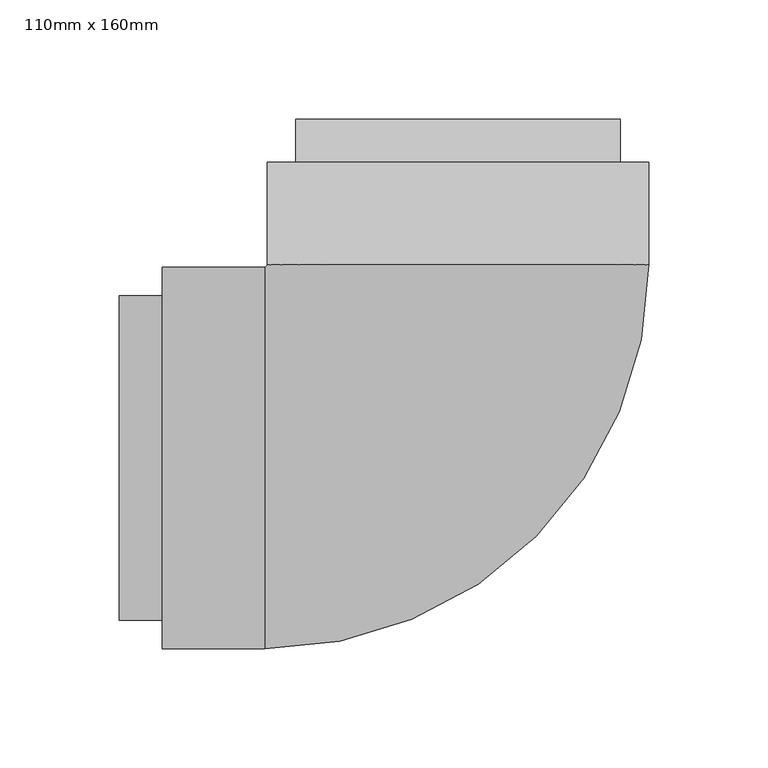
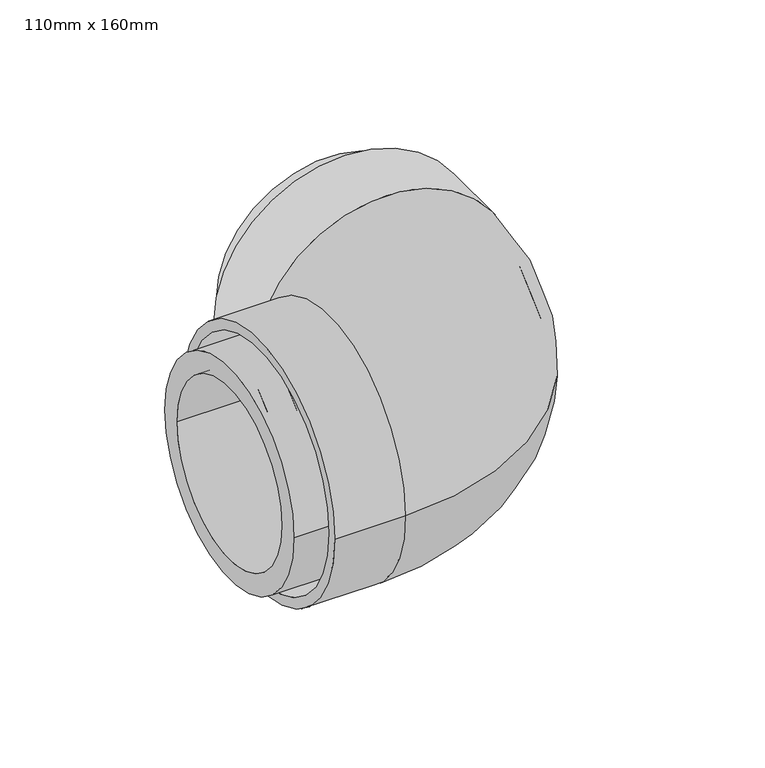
"""IFC4 building model written with IfcOpenShell, lengths in millimetres: pipe fitting geometry, Durapipe_PipeFittings_PLX_CloseFit_90Elbow : 110mm x 160mm."""

from ifc_helpers import new_model, si_unit, point, frame, origin, place, context, project, spatial, polyline, circle_curve, ellipse_curve, trimmed, source, transform, mapped, element, save
from ifc_brep_helpers import plane_surface, cylinder_surface, revolved_surface, advanced_brep


def pipe_fitting_110mm_x_160mm_ff918d63(model_context):
    return source(origin(), model_context, "Body", "AdvancedBrep", [
        advanced_brep(
        [(-124.0, -80.0, 0.0), (-124.0, 80.0, 0.0), (-124.0, -73.75, 0.0), (-124.0, 73.75, 0.0), (-81.0, -80.0, 0.0), (-81.0, 80.0, 0.0), (-81.0, -73.75, 0.0), (-81.0, 73.75, 0.0), (-80.0, 81.0, 0.0), (80.0, 81.0, 0.0), (-73.75, 81.0, 0.0), (73.75, 81.0, 0.0), (80.0, 124.0, 0.0), (-80.0, 124.0, 0.0), (73.75, 124.0, 0.0), (-73.75, 124.0, 0.0)],
        [
            (0, 1, circle_curve(frame((-124.0, 0.0, 0.0), z_axis=(-1.0, 0.0, 0.0), x_axis=(0.0, 1.0, 0.0)), 80.0)),
            (1, 0, circle_curve(frame((-124.0, 0.0, 0.0), z_axis=(-1.0, 0.0, 0.0), x_axis=(0.0, 1.0, 0.0)), 80.0)),
            (2, 3, circle_curve(frame((-124.0, 0.0, 0.0), z_axis=(1.0, 0.0, 0.0), x_axis=(0.0, 1.0, 0.0)), 73.75)),
            (3, 2, circle_curve(frame((-124.0, 0.0, 0.0), z_axis=(1.0, 0.0, 0.0), x_axis=(0.0, 1.0, 0.0)), 73.75)),
            (0, 4),
            (4, 5, circle_curve(frame((-81.0, 0.0, 0.0), z_axis=(-1.0, 0.0, 0.0), x_axis=(0.0, 1.0, 0.0)), 80.0)),
            (5, 1),
            (5, 4, circle_curve(frame((-81.0, 0.0, 0.0), z_axis=(-1.0, 0.0, 0.0), x_axis=(0.0, 1.0, 0.0)), 80.0)),
            (2, 6),
            (6, 7, circle_curve(frame((-81.0, 0.0, 0.0), z_axis=(1.0, 0.0, 0.0), x_axis=(0.0, 1.0, 0.0)), 73.75)),
            (7, 3),
            (7, 6, circle_curve(frame((-81.0, 0.0, 0.0), z_axis=(1.0, 0.0, 0.0), x_axis=(0.0, 1.0, 0.0)), 73.75)),
            (8, 5, circle_curve(frame((-81.0, 81.0, 0.0), z_axis=(0.0, 0.0, -1.0), x_axis=(0.0, -1.0, 0.0)), 1.0)),
            (4, 9, circle_curve(frame((-81.0, 81.0, 0.0), z_axis=(0.0, 0.0, 1.0), x_axis=(0.0, -1.0, 0.0)), 161.0)),
            (9, 8, circle_curve(frame((0.0, 81.0, 0.0), z_axis=(0.0, -1.0, 0.0), x_axis=(-1.0, 0.0, 0.0)), 80.0)),
            (8, 9, circle_curve(frame((0.0, 81.0, 0.0), z_axis=(0.0, -1.0, 0.0), x_axis=(-1.0, 0.0, 0.0)), 80.0)),
            (10, 7, circle_curve(frame((-81.0, 81.0, 0.0), z_axis=(0.0, 0.0, -1.0), x_axis=(0.0, -1.0, 0.0)), 7.25)),
            (6, 11, circle_curve(frame((-81.0, 81.0, 0.0), z_axis=(0.0, 0.0, 1.0), x_axis=(0.0, -1.0, 0.0)), 154.75)),
            (11, 10, circle_curve(frame((0.0, 81.0, 0.0), z_axis=(0.0, 1.0, 0.0), x_axis=(-1.0, 0.0, 0.0)), 73.75)),
            (10, 11, circle_curve(frame((0.0, 81.0, 0.0), z_axis=(0.0, 1.0, 0.0), x_axis=(-1.0, 0.0, 0.0)), 73.75)),
            (12, 13, circle_curve(frame((0.0, 124.0, 0.0), z_axis=(0.0, 1.0, 0.0), x_axis=(-1.0, 0.0, 0.0)), 80.0)),
            (13, 12, circle_curve(frame((0.0, 124.0, 0.0), z_axis=(0.0, 1.0, 0.0), x_axis=(-1.0, 0.0, 0.0)), 80.0)),
            (14, 15, circle_curve(frame((0.0, 124.0, 0.0), z_axis=(0.0, -1.0, 0.0), x_axis=(-1.0, 0.0, 0.0)), 73.75)),
            (15, 14, circle_curve(frame((0.0, 124.0, 0.0), z_axis=(0.0, -1.0, 0.0), x_axis=(-1.0, 0.0, 0.0)), 73.75)),
            (9, 12),
            (13, 8),
            (11, 14),
            (15, 10),
        ],
        [
            plane_surface(frame((-124.0, 0.0, 0.0), z_axis=(-1.0, 0.0, 0.0), x_axis=(0.0, 0.0, 1.0))),
            cylinder_surface(frame((-124.0, 0.0, 0.0), z_axis=(-1.0, 0.0, 0.0), x_axis=(0.0, 1.0, 0.0)), 80.0),
            revolved_surface(polyline([(-81.0, 73.75, 0.0), (-124.0, 73.75, 0.0)]), (-124.0, 0.0, 0.0), (1.0, 0.0, 0.0)),
            revolved_surface(trimmed(ellipse_curve(frame((-81.0, 0.0, 0.0), z_axis=(-1.0, 0.0, 0.0), x_axis=(0.0, 1.0, 0.0)), 80.0, 80.0), [point((-81.0, -80.0, 0.0))], [point((-81.0, 80.0, 0.0))], True, "CARTESIAN"), (-81.0, 81.0, 0.0), (0.0, 0.0, 1.0)),
            revolved_surface(trimmed(ellipse_curve(frame((-81.0, 0.0, 0.0), z_axis=(-1.0, 0.0, 0.0), x_axis=(0.0, 1.0, 0.0)), 80.0, 80.0), [point((-81.0, 80.0, 0.0))], [point((-81.0, -80.0, 0.0))], True, "CARTESIAN"), (-81.0, 81.0, 0.0), (0.0, 0.0, 1.0)),
            revolved_surface(trimmed(ellipse_curve(frame((-81.0, 0.0, 0.0), z_axis=(1.0, 0.0, 0.0), x_axis=(0.0, 1.0, 0.0)), 73.75, 73.75), [point((-81.0, -73.75, 0.0))], [point((-81.0, 73.75, 0.0))], True, "CARTESIAN"), (-81.0, 81.0, 0.0), (0.0, 0.0, 1.0)),
            revolved_surface(trimmed(ellipse_curve(frame((-81.0, 0.0, 0.0), z_axis=(1.0, 0.0, 0.0), x_axis=(0.0, 1.0, 0.0)), 73.75, 73.75), [point((-81.0, 73.75, 0.0))], [point((-81.0, -73.75, 0.0))], True, "CARTESIAN"), (-81.0, 81.0, 0.0), (0.0, 0.0, 1.0)),
            plane_surface(frame((0.0, 124.0, 0.0), z_axis=(0.0, 1.0, 0.0), x_axis=(0.0, 0.0, 1.0))),
            cylinder_surface(frame((0.0, 81.0, 0.0), z_axis=(0.0, -1.0, 0.0), x_axis=(-1.0, 0.0, 0.0)), 80.0),
            revolved_surface(polyline([(-73.75, 124.0, 0.0), (-73.75, 81.0, 0.0)]), (0.0, 81.0, 0.0), (0.0, 1.0, 0.0)),
        ],
        [
            (0, [[1, 2], [3, 4]]),
            (1, [[-1, 5, 6, 7]]),
            (1, [[-2, -7, 8, -5]]),
            (2, [[-3, 9, 10, 11]]),
            (2, [[-4, -11, 12, -9]]),
            (3, [[13, -6, 14, 15]]),
            (4, [[-14, -8, -13, 16]]),
            (5, [[17, -10, 18, 19]]),
            (6, [[-18, -12, -17, 20]]),
            (7, [[21, 22], [23, 24]]),
            (8, [[-15, 25, -22, 26]]),
            (8, [[-16, -26, -21, -25]]),
            (9, [[-19, 27, -24, 28]]),
            (9, [[-20, -28, -23, -27]]),
        ],
    ),
        advanced_brep(
        [(-69.0, 68.0, 0.0), (-69.0, -68.0, 0.0), (68.0, 69.0, 0.0), (-68.0, 69.0, 0.0), (-142.0, -68.0, 0.0), (-142.0, 68.0, 0.0), (-142.0, -55.2, 0.0), (-142.0, 55.2, 0.0), (-68.0, 142.0, 0.0), (68.0, 142.0, 0.0), (0.0, 142.0, 55.2), (0.0, 142.0, -55.2), (-72.0, 55.2, 0.0), (-72.0, -55.2, 0.0), (0.0, 72.0, -55.2), (0.0, 72.0, 55.2)],
        [
            (0, 1, circle_curve(frame((-69.0, 0.0, 0.0), z_axis=(1.0, 0.0, 0.0), x_axis=(0.0, 1.0, 0.0)), 68.0)),
            (1, 2, circle_curve(frame((-69.0, 69.0, 0.0), z_axis=(0.0, 0.0, 1.0), x_axis=(0.0, -1.0, 0.0)), 137.0)),
            (2, 3, circle_curve(frame((0.0, 69.0, 0.0), z_axis=(0.0, -1.0, 0.0), x_axis=(-1.0, 0.0, 0.0)), 68.0)),
            (3, 0, circle_curve(frame((-69.0, 69.0, 0.0), z_axis=(0.0, 0.0, -1.0), x_axis=(0.0, -1.0, 0.0)), 1.0)),
            (1, 0, circle_curve(frame((-69.0, 0.0, 0.0), z_axis=(1.0, 0.0, 0.0), x_axis=(0.0, 1.0, 0.0)), 68.0)),
            (3, 2, circle_curve(frame((0.0, 69.0, 0.0), z_axis=(0.0, -1.0, 0.0), x_axis=(-1.0, 0.0, 0.0)), 68.0)),
            (4, 5, circle_curve(frame((-142.0, 0.0, 0.0), z_axis=(-1.0, 0.0, 0.0), x_axis=(0.0, 1.0, 0.0)), 68.0)),
            (5, 4, circle_curve(frame((-142.0, 0.0, 0.0), z_axis=(-1.0, 0.0, 0.0), x_axis=(0.0, 1.0, 0.0)), 68.0)),
            (6, 7, circle_curve(frame((-142.0, 0.0, 0.0), z_axis=(1.0, 0.0, 0.0), x_axis=(0.0, -1.0, 0.0)), 55.2)),
            (7, 6, circle_curve(frame((-142.0, 0.0, 0.0), z_axis=(1.0, 0.0, 0.0), x_axis=(0.0, -1.0, 0.0)), 55.2)),
            (8, 9, circle_curve(frame((0.0, 142.0, 0.0), z_axis=(0.0, 1.0, 0.0), x_axis=(-1.0, 0.0, 0.0)), 68.0)),
            (9, 8, circle_curve(frame((0.0, 142.0, 0.0), z_axis=(0.0, 1.0, 0.0), x_axis=(-1.0, 0.0, 0.0)), 68.0)),
            (10, 11, circle_curve(frame((0.0, 142.0, 0.0), z_axis=(0.0, -1.0, 0.0), x_axis=(0.0, 0.0, 1.0)), 55.2)),
            (11, 10, circle_curve(frame((0.0, 142.0, 0.0), z_axis=(0.0, -1.0, 0.0), x_axis=(0.0, 0.0, 1.0)), 55.2)),
            (0, 5),
            (4, 1),
            (2, 9),
            (8, 3),
            (12, 13, circle_curve(frame((-72.0, 0.0, 0.0), z_axis=(-1.0, 0.0, 0.0), x_axis=(0.0, -1.0, 0.0)), 55.2)),
            (13, 12, circle_curve(frame((-72.0, 0.0, 0.0), z_axis=(-1.0, 0.0, 0.0), x_axis=(0.0, -1.0, 0.0)), 55.2)),
            (12, 7),
            (6, 13),
            (14, 15, circle_curve(frame((0.0, 72.0, 0.0), z_axis=(0.0, 1.0, 0.0), x_axis=(0.0, 0.0, 1.0)), 55.2)),
            (15, 14, circle_curve(frame((0.0, 72.0, 0.0), z_axis=(0.0, 1.0, 0.0), x_axis=(0.0, 0.0, 1.0)), 55.2)),
            (14, 11),
            (10, 15),
        ],
        [
            revolved_surface(trimmed(ellipse_curve(frame((-69.0, 0.0, 0.0), z_axis=(-1.0, 0.0, 0.0), x_axis=(0.0, 1.0, 0.0)), 68.0, 68.0), [point((-69.0, -68.0, 0.0))], [point((-69.0, 68.0, 0.0))], True, "CARTESIAN"), (-69.0, 69.0, 0.0), (0.0, 0.0, 1.0)),
            revolved_surface(trimmed(ellipse_curve(frame((-69.0, 0.0, 0.0), z_axis=(-1.0, 0.0, 0.0), x_axis=(0.0, 1.0, 0.0)), 68.0, 68.0), [point((-69.0, 68.0, 0.0))], [point((-69.0, -68.0, 0.0))], True, "CARTESIAN"), (-69.0, 69.0, 0.0), (0.0, 0.0, 1.0)),
            plane_surface(frame((-142.0, 0.0, 0.0), z_axis=(-1.0, 0.0, 0.0), x_axis=(0.0, 0.0, 1.0))),
            plane_surface(frame((0.0, 142.0, 0.0), z_axis=(0.0, 1.0, 0.0), x_axis=(0.0, 0.0, 1.0))),
            cylinder_surface(frame((-142.0, 0.0, 0.0), z_axis=(-1.0, 0.0, 0.0), x_axis=(0.0, 1.0, 0.0)), 68.0),
            cylinder_surface(frame((0.0, 69.0, 0.0), z_axis=(0.0, -1.0, 0.0), x_axis=(-1.0, 0.0, 0.0)), 68.0),
            plane_surface(frame((-72.0, -55.2, 0.0), z_axis=(-1.0, 0.0, 0.0), x_axis=(0.0, 0.0, -1.0))),
            revolved_surface(polyline([(-142.0, -55.2, 0.0), (-72.0, -55.2, 0.0)]), (-72.0, 0.0, 0.0), (-1.0, 0.0, 0.0)),
            plane_surface(frame((0.0, 72.0, 55.2), z_axis=(0.0, 1.0, 0.0), x_axis=(-1.0, 0.0, 0.0))),
            revolved_surface(polyline([(0.0, 142.0, 55.2), (0.0, 72.0, 55.2)]), (0.0, 72.0, 0.0), (0.0, 1.0, 0.0)),
        ],
        [
            (0, [[1, 2, 3, 4]]),
            (1, [[5, -4, 6, -2]]),
            (2, [[7, 8], [9, 10]]),
            (3, [[11, 12], [13, 14]]),
            (4, [[-1, 15, -7, 16]]),
            (4, [[-5, -16, -8, -15]]),
            (5, [[-3, 17, -11, 18]]),
            (5, [[-6, -18, -12, -17]]),
            (6, [[19, 20]]),
            (7, [[-19, 21, -9, 22]]),
            (7, [[-20, -22, -10, -21]]),
            (8, [[23, 24]]),
            (9, [[-23, 25, -13, 26]]),
            (9, [[-24, -26, -14, -25]]),
        ],
    ),
    ])


if __name__ == "__main__":
    model = new_model("IFC4")
    model_context = context("Model", 3, world=origin())
    ifc_project = project(units=[si_unit("LENGTHUNIT", "METRE", prefix="MILLI")], contexts=[model_context])
    site = spatial("IfcSite", under=ifc_project)
    building = spatial("IfcBuilding", under=site)
    placement = place(None, origin())
    pipe_fitting_110mm_x_160mm_shape = pipe_fitting_110mm_x_160mm_ff918d63(model_context)
    element("IfcPipeFitting", 1, ObjectType="Durapipe_PipeFittings_PLX_CloseFit_90Elbow : 110mm x 160mm", at=placement, inside=building, context=model_context, shape_type="MappedRepresentation", body=[
        mapped(pipe_fitting_110mm_x_160mm_shape, transform((0.0, 0.0, 0.0), x_axis=(1.0, 0.0, 0.0), y_axis=(0.0, 1.0, 0.0), z_axis=(0.0, 0.0, 1.0))),
    ])
    save(model, "model.ifc")
